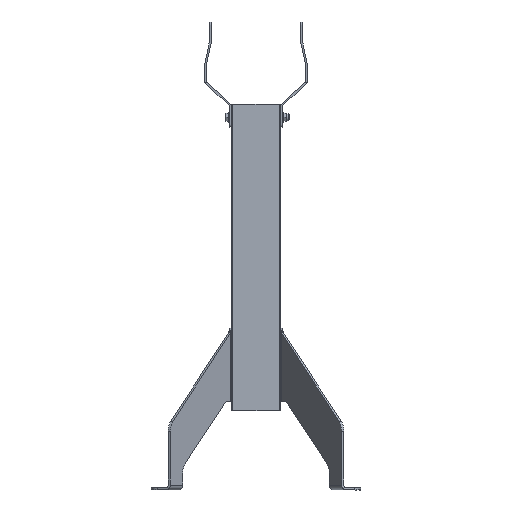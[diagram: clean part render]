
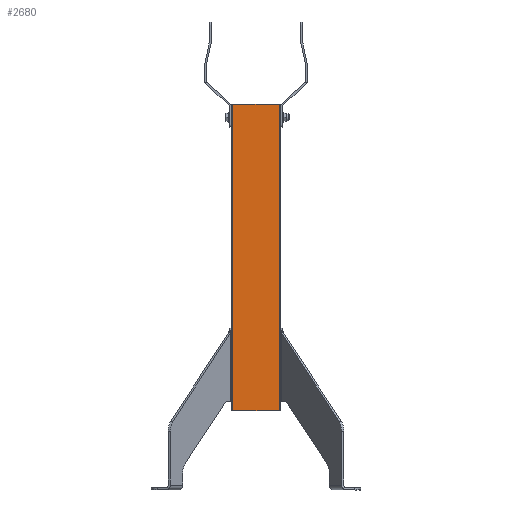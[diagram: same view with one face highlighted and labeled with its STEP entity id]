
A CAD part, front view. The second image highlights one B-rep face of the part: STEP entity #2680.
In plain terms, the highlighted planar face has unit normal (0, -1, 0).
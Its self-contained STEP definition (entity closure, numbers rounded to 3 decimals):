
#287=PLANE('',#3029);
#383=FACE_OUTER_BOUND('',#543,.T.);
#543=EDGE_LOOP('',(#2078,#2079,#2080,#2081));
#737=LINE('',#4338,#953);
#742=LINE('',#4355,#958);
#743=LINE('',#4358,#959);
#744=LINE('',#4359,#960);
#953=VECTOR('',#3499,10.);
#958=VECTOR('',#3518,10.);
#959=VECTOR('',#3521,10.);
#960=VECTOR('',#3522,10.);
#1301=VERTEX_POINT('',#4335);
#1302=VERTEX_POINT('',#4337);
#1307=VERTEX_POINT('',#4353);
#1308=VERTEX_POINT('',#4357);
#1582=EDGE_CURVE('',#1301,#1302,#737,.T.);
#1591=EDGE_CURVE('',#1302,#1307,#742,.T.);
#1592=EDGE_CURVE('',#1308,#1301,#743,.T.);
#1593=EDGE_CURVE('',#1308,#1307,#744,.T.);
#2078=ORIENTED_EDGE('',*,*,#1591,.F.);
#2079=ORIENTED_EDGE('',*,*,#1582,.F.);
#2080=ORIENTED_EDGE('',*,*,#1592,.F.);
#2081=ORIENTED_EDGE('',*,*,#1593,.T.);
#2680=ADVANCED_FACE('',(#383),#287,.T.);
#3029=AXIS2_PLACEMENT_3D('',#4356,#3519,#3520);
#3499=DIRECTION('',(-1.,0.,0.));
#3518=DIRECTION('',(0.,0.,1.));
#3519=DIRECTION('center_axis',(0.,-1.,0.));
#3520=DIRECTION('ref_axis',(0.,0.,-1.));
#3521=DIRECTION('',(0.,0.,-1.));
#3522=DIRECTION('',(-1.,0.,0.));
#4335=CARTESIAN_POINT('',(-2.,0.,0.));
#4337=CARTESIAN_POINT('',(-78.,0.,0.));
#4338=CARTESIAN_POINT('',(0.,0.,0.));
#4353=CARTESIAN_POINT('',(-78.,0.,500.));
#4355=CARTESIAN_POINT('',(-78.,0.,0.));
#4356=CARTESIAN_POINT('Origin',(0.,0.,0.));
#4357=CARTESIAN_POINT('',(-2.,0.,500.));
#4358=CARTESIAN_POINT('',(-2.,0.,0.));
#4359=CARTESIAN_POINT('',(0.,0.,500.));
